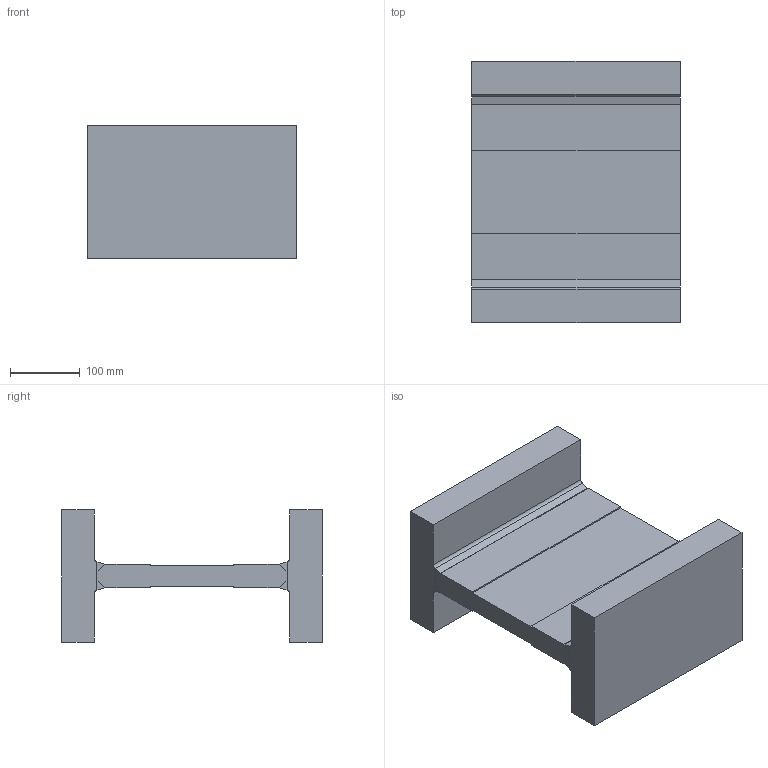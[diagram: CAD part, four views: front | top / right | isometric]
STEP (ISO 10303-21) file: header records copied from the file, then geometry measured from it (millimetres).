
FILE_DESCRIPTION((''),'2;1');
FILE_NAME('Z:\Kataloge\Katalog 109\Inventor-Dateien\Mammutrollen+MPI+MPU-Profile\ALFATEC_MPI_280_0816.stp','2009-11-09T16:00:26',('Kircher'),(''),'Autodesk Inventor 2010','Autodesk Inventor 2010','');
FILE_SCHEMA(('CONFIG_CONTROL_DESIGN'));
Length unit declared in the file: millimetre
Products named in the file (4): ALFATEC_MPI_280_0816; ALFATEC_MPI_280_0816-Teil 1; ALFATEC_MPI_280_0816-Teil 2; ALFATEC_MPI_280_0816-Teil 3
Assembly tree (3 placements, depth 2):
  ALFATEC_MPI_280_0816
    ALFATEC_MPI_280_0816-Teil 1
    ALFATEC_MPI_280_0816-Teil 2
    ALFATEC_MPI_280_0816-Teil 3
Bounding box: 300 x 375 x 190 mm (x, y, z)
Volume: 8147572.6 mm3; surface area: 569463.5 mm2
Topology: 7 solids, 7 shells, 62 faces, 144 edges, 96 vertices
Faces by surface type: plane 58, cylinder 4
Entity records: 1856 total; most frequent: CARTESIAN_POINT 309, DIRECTION 290, ORIENTED_EDGE 288, EDGE_CURVE 144, VECTOR 136, LINE 136, VERTEX_POINT 96, AXIS2_PLACEMENT_3D 77
